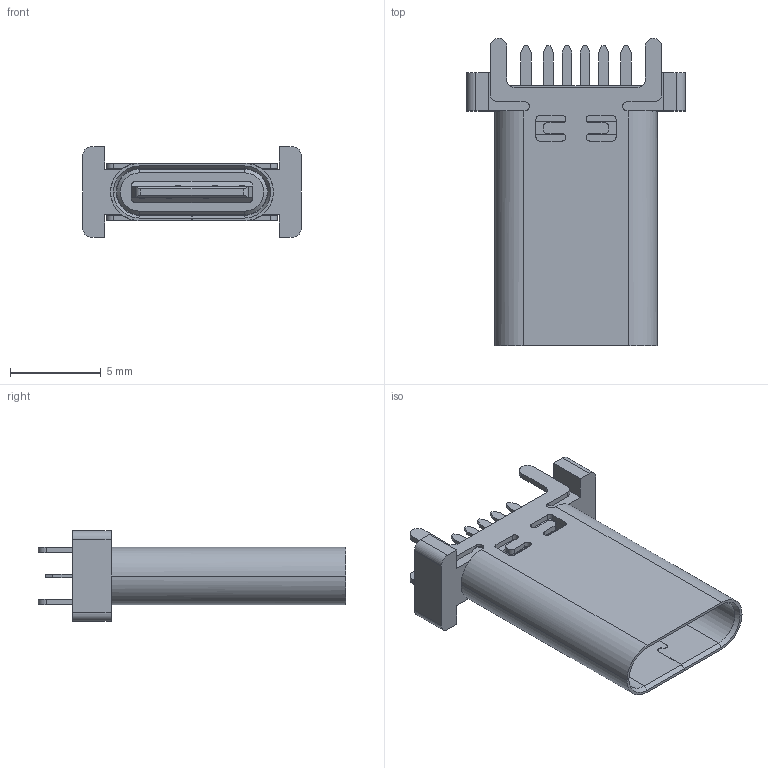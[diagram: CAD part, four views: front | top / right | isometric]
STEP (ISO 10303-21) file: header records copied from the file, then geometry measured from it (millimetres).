
FILE_DESCRIPTION (( 'STEP AP203' ), '1' );
FILE_NAME ('Product H=15.0mm.STEP', '2021-01-04T13:27:30', ( 'Windows 蚚誧' ), ( 'Microsoft' ), 'SwSTEP 2.0', 'SolidWorks 2016', '' );
FILE_SCHEMA (( 'CONFIG_CONTROL_DESIGN' ));
Length unit declared in the file: millimetre
Products named in the file (1): Product  H=15.0mm
Bounding box: 12 x 16.9 x 5 mm (x, y, z)
Volume: 296.5 mm3; surface area: 978.2 mm2
Topology: 1 solids, 1 shells, 347 faces, 977 edges, 641 vertices
Faces by surface type: plane 214, cylinder 119, cone 14
Entity records: 11293 total; most frequent: CARTESIAN_POINT 2022, ORIENTED_EDGE 1954, DIRECTION 1914, EDGE_CURVE 977, LINE 704, VECTOR 704, VERTEX_POINT 641, AXIS2_PLACEMENT_3D 605
